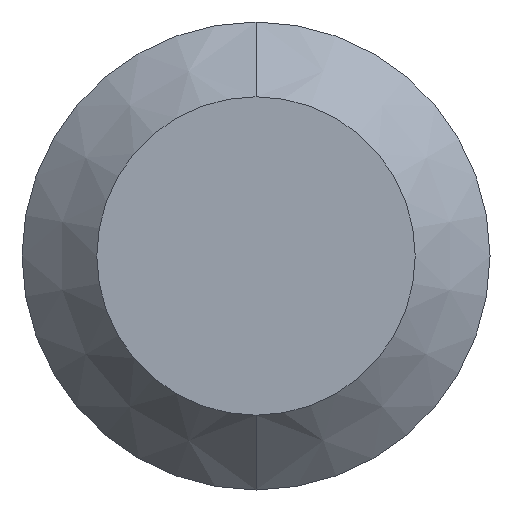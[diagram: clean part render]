
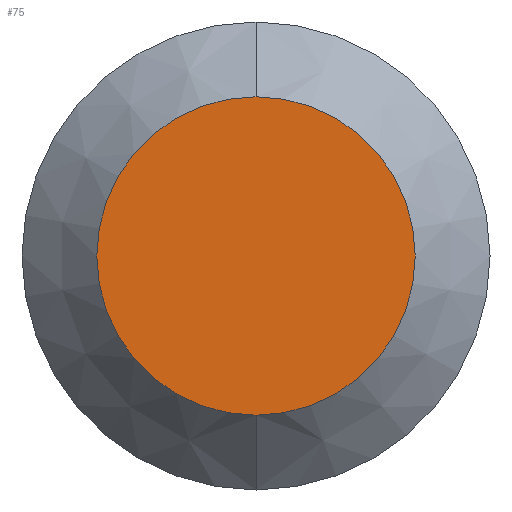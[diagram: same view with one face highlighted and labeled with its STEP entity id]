
A CAD part, front view. The second image highlights one B-rep face of the part: STEP entity #75.
In plain terms, the highlighted planar face has unit normal (0, -1, 0).
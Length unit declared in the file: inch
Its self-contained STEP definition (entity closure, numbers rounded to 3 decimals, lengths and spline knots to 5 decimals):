
#32 = VERTEX_POINT ( 'NONE', #169 ) ;
#35 = EDGE_CURVE ( 'NONE', #32, #36, #137, .T. ) ;
#36 = VERTEX_POINT ( 'NONE', #167 ) ;
#58 = EDGE_LOOP ( 'NONE', ( #76, #70 ) ) ;
#70 = ORIENTED_EDGE ( 'NONE', *, *, #35, .T. ) ;
#75 = ADVANCED_FACE ( 'NONE', ( #206 ), #225, .F. ) ;
#76 = ORIENTED_EDGE ( 'NONE', *, *, #77, .T. ) ;
#77 = EDGE_CURVE ( 'NONE', #36, #32, #191, .T. ) ;
#137 = CIRCLE ( 'NONE', #172, 0.0426 ) ;
#162 = DIRECTION ( 'NONE',  ( 0., 0., 1. ) ) ;
#163 = DIRECTION ( 'NONE',  ( 0., -1., 0. ) ) ;
#164 = CARTESIAN_POINT ( 'NONE',  ( 0., -0.5, 0. ) ) ;
#167 = CARTESIAN_POINT ( 'NONE',  ( 0., -0.5, 0.0426 ) ) ;
#169 = CARTESIAN_POINT ( 'NONE',  ( 0., -0.5, -0.0426 ) ) ;
#172 = AXIS2_PLACEMENT_3D ( 'NONE', #164, #163, #162 ) ;
#186 = DIRECTION ( 'NONE',  ( 0., 1., 0. ) ) ;
#187 = CARTESIAN_POINT ( 'NONE',  ( 0., -0.5, 0. ) ) ;
#188 = AXIS2_PLACEMENT_3D ( 'NONE', #187, #186, #275 ) ;
#190 = CARTESIAN_POINT ( 'NONE',  ( 0., -0.5, 0. ) ) ;
#191 = CIRCLE ( 'NONE', #273, 0.0426 ) ;
#206 = FACE_OUTER_BOUND ( 'NONE', #58, .T. ) ;
#225 = PLANE ( 'NONE',  #188 ) ;
#272 = DIRECTION ( 'NONE',  ( 0., 0., 1. ) ) ;
#273 = AXIS2_PLACEMENT_3D ( 'NONE', #190, #274, #272 ) ;
#274 = DIRECTION ( 'NONE',  ( 0., -1., 0. ) ) ;
#275 = DIRECTION ( 'NONE',  ( 0., 0., 1. ) ) ;
